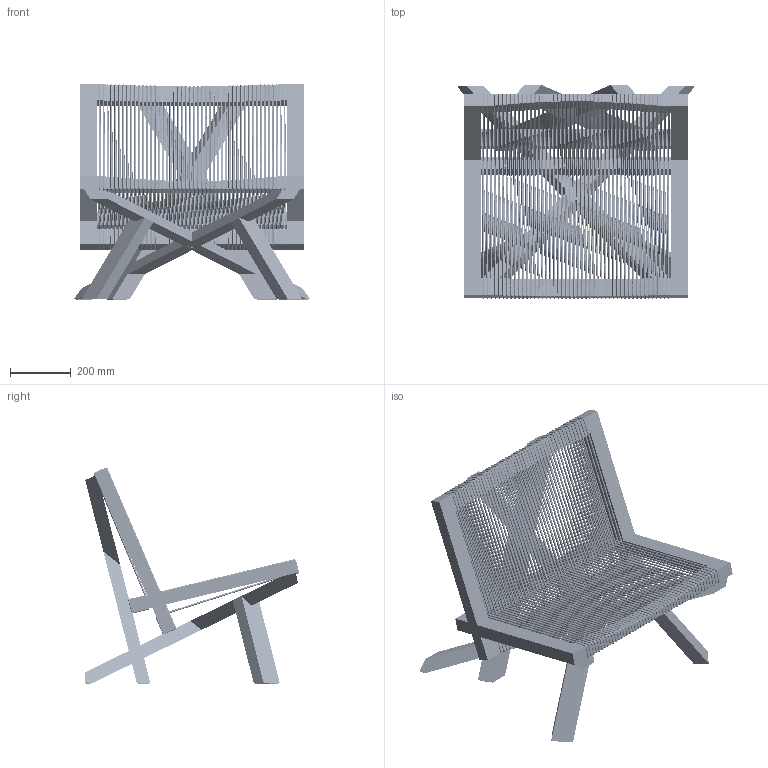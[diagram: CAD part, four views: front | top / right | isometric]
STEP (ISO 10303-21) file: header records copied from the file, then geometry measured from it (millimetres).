
FILE_DESCRIPTION(/* description */ (''),/* implementation_level */ '2;1');
FILE_NAME(/* name */ 'HdM_Volkshaus-Lounge-Chair_2D_20240220',/* time_stamp */ '2024-02-20T11:25:01+01:00',/* author */ (''),/* organization */ (''),/* preprocessor_version */ 'ST-DEVELOPER v19.2',/* originating_system */ 'Rhino 8.3',/* authorisation */ '');
FILE_SCHEMA (('CONFIG_CONTROL_DESIGN'));
Products named in the file (13): Document; wireframe_rep_0; Block 09; Block 10; Block 11; Block 12; Block 13; Block 14; Block 16; Block 17; Block 19; Block 20; Block 21
Bounding box: 784.62 x 706.09 x 716.31 mm (x, y, z)
Volume: 10490598.5 mm3; surface area: 3904401.9 mm2
Topology: 1 solids, 146 shells, 3491 faces, 7891 edges, 4473 vertices
Faces by surface type: bspline 3292, plane 177, cylinder 22
Entity records: 207107 total; most frequent: CARTESIAN_POINT 156057, ORIENTED_EDGE 14774, EDGE_CURVE 7752, B_SPLINE_CURVE_WITH_KNOTS 7694, VERTEX_POINT 4404, EDGE_LOOP 3484, ADVANCED_FACE 3483, FACE_OUTER_BOUND 3483
